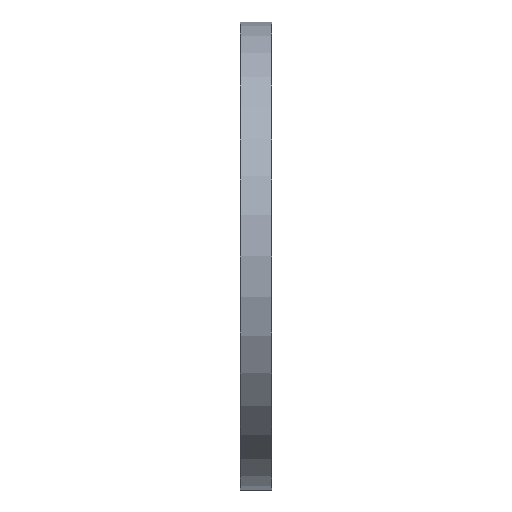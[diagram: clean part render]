
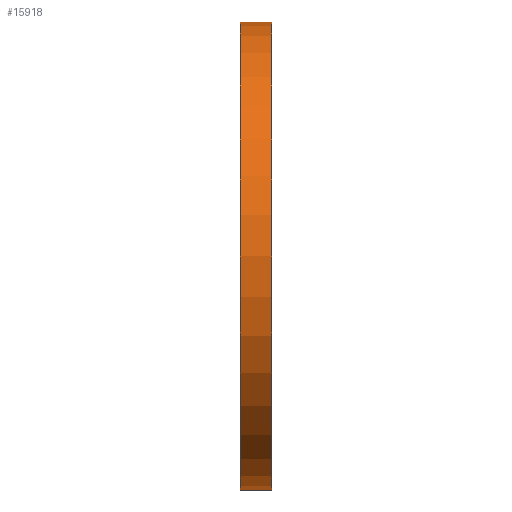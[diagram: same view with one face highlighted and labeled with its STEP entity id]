
A CAD part, front view. The second image highlights one B-rep face of the part: STEP entity #15918.
In plain terms, the highlighted cylindrical face has radius 75 mm (diameter 150 mm), a partial arc.
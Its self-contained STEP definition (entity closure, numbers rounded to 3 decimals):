
#6=CARTESIAN_POINT('',(-5.,0.,0.));
#7=DIRECTION('',(1.,0.,0.));
#8=DIRECTION('',(0.,0.,1.));
#9=AXIS2_PLACEMENT_3D('',#6,#7,#8);
#3851=DIRECTION('',(1.,0.,0.));
#3852=VECTOR('',#3851,10.);
#3853=CARTESIAN_POINT('',(-5.,0.,-75.));
#3854=LINE('',#3853,#3852);
#3855=DIRECTION('',(1.,0.,0.));
#3856=VECTOR('',#3855,10.);
#3857=CARTESIAN_POINT('',(-5.,0.,75.));
#3858=LINE('',#3857,#3856);
#3864=CARTESIAN_POINT('',(5.,0.,0.));
#3865=DIRECTION('',(1.,0.,0.));
#3866=DIRECTION('',(0.,0.,1.));
#3867=AXIS2_PLACEMENT_3D('',#3864,#3865,#3866);
#11789=CARTESIAN_POINT('',(-5.,0.,-75.));
#11790=CARTESIAN_POINT('',(-5.,0.,75.));
#11791=VERTEX_POINT('',#11789);
#11792=VERTEX_POINT('',#11790);
#11793=CARTESIAN_POINT('',(5.,0.,-75.));
#11794=CARTESIAN_POINT('',(5.,0.,75.));
#11795=VERTEX_POINT('',#11793);
#11796=VERTEX_POINT('',#11794);
#15906=CARTESIAN_POINT('',(-5.,0.,0.));
#15907=DIRECTION('',(1.,0.,0.));
#15908=DIRECTION('',(0.,0.,-1.));
#15909=AXIS2_PLACEMENT_3D('',#15906,#15907,#15908);
#15910=CYLINDRICAL_SURFACE('',#15909,75.);
#15911=ORIENTED_EDGE('',*,*,#14444,.F.);
#15912=ORIENTED_EDGE('',*,*,#15901,.T.);
#15914=ORIENTED_EDGE('',*,*,#15913,.T.);
#15915=ORIENTED_EDGE('',*,*,#15897,.F.);
#15916=EDGE_LOOP('',(#15911,#15912,#15914,#15915));
#15917=FACE_OUTER_BOUND('',#15916,.F.);
#15918=ADVANCED_FACE('',(#15917),#15910,.T.);
#10=CIRCLE('',#9,75.);
#3868=CIRCLE('',#3867,75.);
#14444=EDGE_CURVE('',#11792,#11791,#10,.T.);
#15897=EDGE_CURVE('',#11791,#11795,#3854,.T.);
#15901=EDGE_CURVE('',#11792,#11796,#3858,.T.);
#15913=EDGE_CURVE('',#11796,#11795,#3868,.T.);
